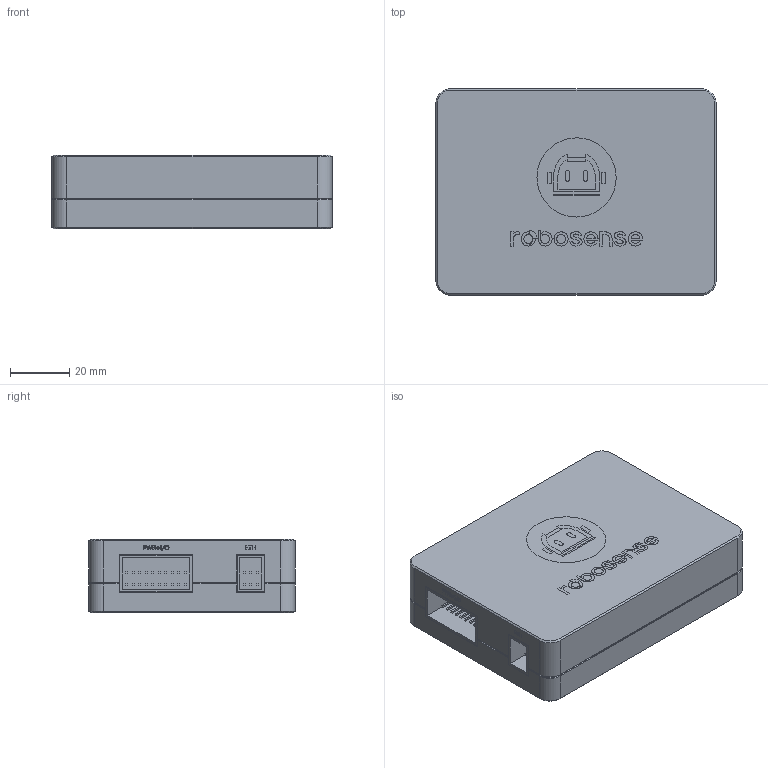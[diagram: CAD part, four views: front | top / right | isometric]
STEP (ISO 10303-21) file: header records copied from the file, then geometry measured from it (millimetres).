
FILE_DESCRIPTION (( 'STEP AP214' ), '1' );
FILE_NAME ('0303 µçÔ´ºÐ×°Åä-20210701.STEP', '2022-02-21T02:00:36', ( '' ), ( '' ), 'SwSTEP 2.0', 'SolidWorks 2019', '' );
FILE_SCHEMA (( 'AUTOMOTIVE_DESIGN' ));
Length unit declared in the file: millimetre
Products named in the file (2): 0303 萇埭碟蚾饜-20210701
Bounding box: 95 x 70 x 25 mm (x, y, z)
Volume: 55146.9 mm3; surface area: 66419.3 mm2
Topology: 10 solids, 10 shells, 977 faces, 2699 edges, 1913 vertices
Faces by surface type: plane 840, cylinder 110, cone 27
Full cylindrical faces by diameter (mm): 2 x2, 2.05 x8, 2.06 x1, 2.5 x4, 2.7 x4, 2.8 x1, 2.9 x4, 3 x5, 3.8 x2, 5 x1, 5.5 x4
Entity records: 42532 total; most frequent: CARTESIAN_POINT 6554, ORIENTED_EDGE 5292, DIRECTION 4721, EDGE_CURVE 2646, VECTOR 2221, LINE 2221, VERTEX_POINT 1905, AXIS2_PLACEMENT_3D 1250
